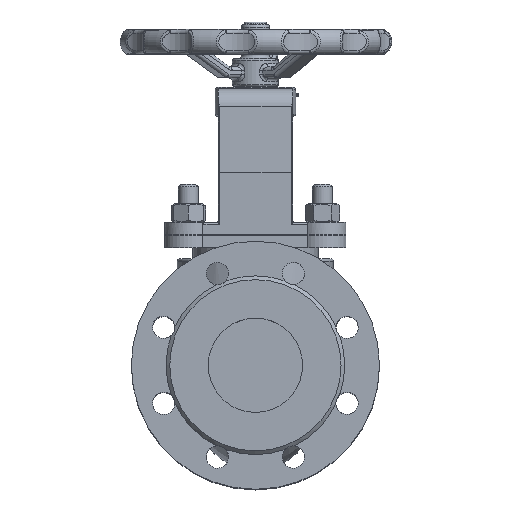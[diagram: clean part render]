
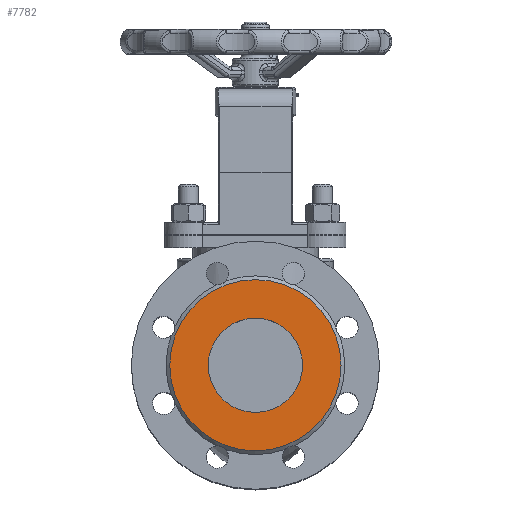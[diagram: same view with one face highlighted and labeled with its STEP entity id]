
A CAD part, top view. The second image highlights one B-rep face of the part: STEP entity #7782.
In plain terms, the highlighted planar face has unit normal (0, 0, 1).
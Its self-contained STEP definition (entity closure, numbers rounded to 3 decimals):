
#7782=ADVANCED_FACE('',(#15740,#15742),#15744,.F.);
#15740=FACE_BOUND('',#15741,.T.);
#15741=EDGE_LOOP('',(#22511));
#15742=FACE_BOUND('',#15743,.T.);
#15743=EDGE_LOOP('',(#22512));
#15744=PLANE('',#15745);
#15745=AXIS2_PLACEMENT_3D('',#15746,#15747,#15748);
#15746=CARTESIAN_POINT('',(0.,0.,155.));
#15747=DIRECTION('',(0.,0.,-1.));
#15748=DIRECTION('',(0.,1.,0.));
#22511=ORIENTED_EDGE('',*,*,#25301,.T.);
#22512=ORIENTED_EDGE('',*,*,#25430,.T.);
#25301=EDGE_CURVE('',#29193,#29193,#29194,.T.);
#25430=EDGE_CURVE('',#29329,#29329,#29330,.T.);
#29193=VERTEX_POINT('',#64517);
#29194=CIRCLE('',#64518,69.);
#29329=VERTEX_POINT('',#73842);
#29330=CIRCLE('',#73843,38.);
#64517=CARTESIAN_POINT('',(0.,69.,155.));
#64518=AXIS2_PLACEMENT_3D('',#64519,#64520,#64521);
#64519=CARTESIAN_POINT('',(0.,0.,155.));
#64520=DIRECTION('',(0.,0.,1.));
#64521=DIRECTION('',(0.,1.,0.));
#73842=CARTESIAN_POINT('',(-38.,0.,155.));
#73843=AXIS2_PLACEMENT_3D('',#73844,#73845,#73846);
#73844=CARTESIAN_POINT('',(0.,0.,155.));
#73845=DIRECTION('',(0.,0.,-1.));
#73846=DIRECTION('',(-1.,0.,0.));
